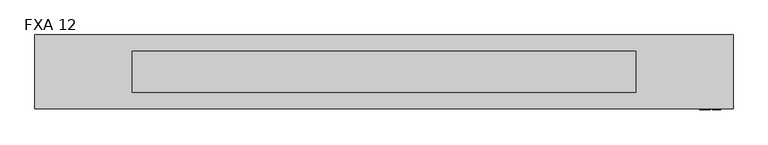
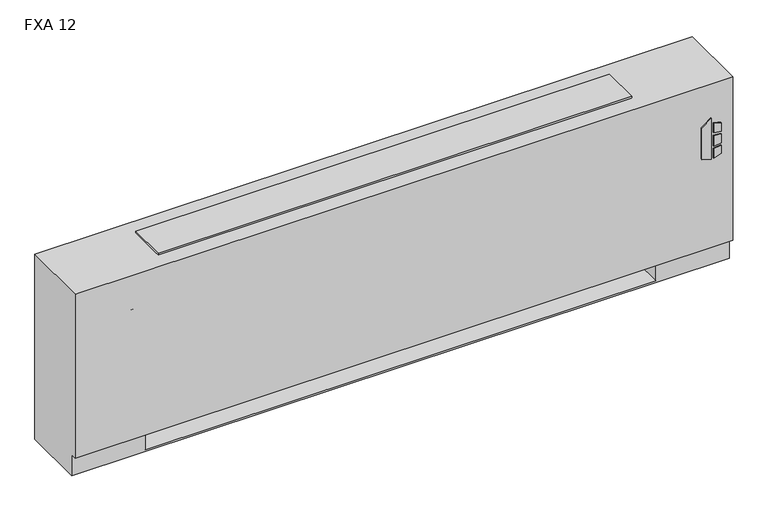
"""IFC4 building model written with IfcOpenShell, lengths in millimetres: proxy geometry, Vertical_Fan_Coil_Unit_-_FXA_-_IEC_-_4-Pipe_TS-FR_LH_2022 : FXA 12."""

from ifc_helpers import new_model, si_unit, point, frame, frame_2d, origin, place, context, project, spatial, polyline, circle_curve, trimmed, segment, composite_curve, outline, extrude, source, transform, mapped, element, save
from ifc_brep_helpers import plane_surface, revolved_surface, advanced_brep


def fxa_12_60c66c87(model_context):
    return source(origin(), model_context, "Body", "SolidModel", [
        extrude(outline(polyline([(391.6086829, 1128.7868862), (381.6606126, 1160.9602728), (523.831537, 1160.9602728), (500.8095309, 1128.7868862), (391.6086829, 1128.7868862)])), frame((0.0, 12.7, 0.0), z_axis=(0.0, 1.0, 0.0), x_axis=(0.0, 0.0, 1.0)), (0.0, 0.0, 1.0), 3.175),
        extrude(outline(polyline([(470.6079683, 1167.7186058), (467.4055757, 1193.8), (496.6344168, 1193.8), (504.6988318, 1167.7186058), (470.6079683, 1167.7186058)])), frame((0.0, 12.7, 0.0), z_axis=(0.0, 1.0, 0.0), x_axis=(0.0, 0.0, 1.0)), (0.0, 0.0, 1.0), 3.175),
        extrude(outline(polyline([(418.7444414, 1193.8), (415.0789404, 1167.7186058), (381.6606126, 1167.7186058), (390.2948498, 1193.8), (418.7444414, 1193.8)])), frame((0.0, 12.7, 0.0), z_axis=(0.0, 1.0, 0.0), x_axis=(0.0, 0.0, 1.0)), (0.0, 0.0, 1.0), 3.175),
        extrude(outline(polyline([(458.0596028, 1193.8), (460.3414292, 1167.7186058), (424.4038806, 1167.7186058), (427.1451456, 1193.8), (458.0596028, 1193.8)])), frame((0.0, 12.7, 0.0), z_axis=(0.0, 1.0, 0.0), x_axis=(0.0, 0.0, 1.0)), (0.0, 0.0, 1.0), 3.175),
        extrude(outline(polyline([(1111.25, 223.266), (1111.25, 81.534), (990.6, 81.534), (990.6, 223.266), (1111.25, 223.266)])), frame((0.0, 0.0, 327.025), z_axis=(0.0, 0.0, 1.0), x_axis=(1.0, 0.0, 0.0)), (0.0, 0.0, 1.0), 260.35),
        extrude(outline(composite_curve([segment(trimmed(circle_curve(frame_2d((-749.3, 130.175)), 9.525), [point((-758.825, 130.175))], [point((-739.775, 130.175))], False, "CARTESIAN"), True, "CONTINUOUS"), segment(trimmed(circle_curve(frame_2d((-749.3, 130.175)), 9.525), [point((-739.775, 130.175))], [point((-758.825, 130.175))], False, "CARTESIAN"), True, "CONTINUOUS")], self_intersect=False)), frame((0.0, 0.0, 101.6), z_axis=(0.0, 0.0, 1.0), x_axis=(1.0, 0.0, 0.0)), (0.0, 0.0, 1.0), 25.4),
        extrude(outline(polyline([(-844.55, 63.5), (-844.55, 196.85), (-685.8, 196.85), (-685.8, 63.5), (-844.55, 63.5)])), frame((0.0, 0.0, 127.0), z_axis=(0.0, 0.0, 1.0), x_axis=(1.0, 0.0, 0.0)), (0.0, 0.0, 1.0), 50.8),
        extrude(outline(composite_curve([segment(trimmed(circle_curve(frame_2d((109.0168, 457.2)), 7.9375), [point((109.0168, 465.1375))], [point((109.0168, 449.2625))], False, "CARTESIAN"), True, "CONTINUOUS"), segment(trimmed(circle_curve(frame_2d((109.0168, 457.2)), 7.9375), [point((109.0168, 449.2625))], [point((109.0168, 465.1375))], False, "CARTESIAN"), True, "CONTINUOUS")], self_intersect=False)), frame((-736.6, 0.0, 0.0), z_axis=(1.0, 0.0, 0.0), x_axis=(0.0, 1.0, 0.0)), (0.0, 0.0, 1.0), 50.8),
        extrude(outline(composite_curve([segment(trimmed(circle_curve(frame_2d((172.085, 460.0194)), 7.9375), [point((172.085, 467.9569))], [point((172.085, 452.0819))], False, "CARTESIAN"), True, "CONTINUOUS"), segment(trimmed(circle_curve(frame_2d((172.085, 460.0194)), 7.9375), [point((172.085, 452.0819))], [point((172.085, 467.9569))], False, "CARTESIAN"), True, "CONTINUOUS")], self_intersect=False)), frame((-736.6, 0.0, 0.0), z_axis=(1.0, 0.0, 0.0), x_axis=(0.0, 1.0, 0.0)), (0.0, 0.0, 1.0), 50.8),
        extrude(outline(composite_curve([segment(trimmed(circle_curve(frame_2d((130.175, 554.99)), 7.9502), [point((130.175, 562.9402))], [point((130.175, 547.0398))], False, "CARTESIAN"), True, "CONTINUOUS"), segment(trimmed(circle_curve(frame_2d((130.175, 554.99)), 7.9502), [point((130.175, 547.0398))], [point((130.175, 562.9402))], False, "CARTESIAN"), True, "CONTINUOUS")], self_intersect=False)), frame((-736.6, 0.0, 0.0), z_axis=(1.0, 0.0, 0.0), x_axis=(0.0, 1.0, 0.0)), (0.0, 0.0, 1.0), 50.8),
        extrude(outline(composite_curve([segment(trimmed(circle_curve(frame_2d((53.975, 416.56)), 7.9502), [point((53.975, 424.5102))], [point((53.975, 408.6098))], False, "CARTESIAN"), True, "CONTINUOUS"), segment(trimmed(circle_curve(frame_2d((53.975, 416.56)), 7.9502), [point((53.975, 408.6098))], [point((53.975, 424.5102))], False, "CARTESIAN"), True, "CONTINUOUS")], self_intersect=False)), frame((-736.6, 0.0, 0.0), z_axis=(1.0, 0.0, 0.0), x_axis=(0.0, 1.0, 0.0)), (0.0, 0.0, 1.0), 50.8),
        advanced_brep(
        [(1231.9, 244.475, 641.35), (-927.1, 244.475, 641.35), (-927.1, 15.875, 641.35), (1231.9, 15.875, 641.35), (-927.1, 244.475, 0.0), (1231.9, 244.475, 0.0), (1231.9, 34.925, 0.0), (-927.1, 34.925, 0.0), (990.6, 244.475, 73.025), (1219.2, 244.475, 73.025), (1219.2, 244.475, 628.65), (990.6, 244.475, 628.65), (990.6, 244.475, 414.8650565), (1019.175, 244.475, 414.8650565), (1019.175, 244.475, 385.2349435), (990.6, 244.475, 385.2349435), (990.6, 244.475, 287.3375), (1019.175, 244.475, 287.3375), (1019.175, 244.475, 258.7625), (990.6, 244.475, 258.7625), (990.6, 244.475, 141.2875), (1019.175, 244.475, 141.2875), (1019.175, 244.475, 112.7125), (990.6, 244.475, 112.7125), (-685.8, 244.475, 628.65), (-914.4, 244.475, 628.65), (-914.4, 244.475, 73.025), (-685.8, 244.475, 73.025), (-685.8, 244.475, 112.7125), (-714.375, 244.475, 112.7125), (-714.375, 244.475, 141.2875), (-685.8, 244.475, 141.2875), (-685.8, 244.475, 258.7625), (-714.375, 244.475, 258.7625), (-714.375, 244.475, 287.3375), (-685.8, 244.475, 287.3375), (-685.8, 244.475, 385.2349435), (-714.375, 244.475, 385.2349435), (-714.375, 244.475, 414.8650565), (-685.8, 244.475, 414.8650565), (1008.8626, 244.475, 127.0), (997.7374, 244.475, 127.0), (1008.8626, 244.475, 400.05), (997.7374, 244.475, 400.05), (1008.8626, 244.475, 273.05), (997.7374, 244.475, 273.05), (-692.9374, 244.475, 127.0), (-704.0626, 244.475, 127.0), (-692.9374, 244.475, 273.05), (-704.0626, 244.475, 273.05), (-692.9374, 244.475, 400.05), (-704.0626, 244.475, 400.05), (-927.1, 34.925, 73.025), (-927.1, 15.875, 73.025), (1231.9, 15.875, 73.025), (1231.9, 34.925, 73.025), (-685.8, 34.925, 73.025), (-685.8, 219.075, 73.025), (990.6, 219.075, 73.025), (990.6, 34.925, 73.025), (990.6, 34.925, 6.35), (-685.8, 34.925, 6.35), (990.6, 41.275, 628.65), (1219.2, 41.275, 628.65), (1219.2, 41.275, 73.025), (990.6, 41.275, 73.025), (-685.8, 41.275, 628.65), (-685.8, 41.275, 73.025), (-914.4, 41.275, 73.025), (-914.4, 41.275, 628.65), (990.6, 219.075, 73.025), (990.6, 238.125, 112.7125), (990.6, 238.125, 141.2875), (990.6, 238.125, 258.7625), (990.6, 238.125, 287.3375), (990.6, 238.125, 385.2349435), (990.6, 238.125, 414.8650565), (-685.8, 219.075, 73.025), (-685.8, 238.125, 414.8650565), (-685.8, 238.125, 385.2349435), (-685.8, 238.125, 287.3375), (-685.8, 238.125, 258.7625), (-685.8, 238.125, 141.2875), (-685.8, 238.125, 112.7125), (-685.8, 219.075, 6.35), (990.6, 219.075, 6.35), (1019.175, 238.125, 112.7125), (1019.175, 238.125, 141.2875), (997.7374, 238.125, 127.0), (1008.8626, 238.125, 127.0), (1019.175, 238.125, 258.7625), (1019.175, 238.125, 287.3375), (997.7374, 238.125, 273.05), (1008.8626, 238.125, 273.05), (1019.175, 238.125, 385.2349435), (1019.175, 238.125, 414.8650565), (997.7374, 238.125, 400.05), (1008.8626, 238.125, 400.05), (-714.375, 238.125, 141.2875), (-714.375, 238.125, 112.7125), (-704.0626, 238.125, 127.0), (-692.9374, 238.125, 127.0), (-714.375, 238.125, 287.3375), (-714.375, 238.125, 258.7625), (-704.0626, 238.125, 273.05), (-692.9374, 238.125, 273.05), (-714.375, 238.125, 414.8650565), (-714.375, 238.125, 385.2349435), (-704.0626, 238.125, 400.05), (-692.9374, 238.125, 400.05)],
        [
            (0, 1),
            (1, 2),
            (2, 3),
            (3, 0),
            (4, 5),
            (5, 6),
            (6, 7),
            (7, 4),
            (0, 5),
            (4, 1),
            (8, 9),
            (9, 10),
            (10, 11),
            (11, 12),
            (12, 13),
            (13, 14),
            (14, 15),
            (15, 16),
            (16, 17),
            (17, 18),
            (18, 19),
            (19, 20),
            (20, 21),
            (21, 22),
            (22, 23),
            (23, 8),
            (24, 25),
            (25, 26),
            (26, 27),
            (27, 28),
            (28, 29),
            (29, 30),
            (30, 31),
            (31, 32),
            (32, 33),
            (33, 34),
            (34, 35),
            (35, 36),
            (36, 37),
            (37, 38),
            (38, 39),
            (39, 24),
            (40, 41, circle_curve(frame((1003.3, 244.475, 127.0), z_axis=(0.0, -1.0, 0.0), x_axis=(-1.0, 0.0, 0.0)), 5.5626)),
            (41, 40, circle_curve(frame((1003.3, 244.475, 127.0), z_axis=(0.0, -1.0, 0.0), x_axis=(-1.0, 0.0, 0.0)), 5.5626)),
            (42, 43, circle_curve(frame((1003.3, 244.475, 400.05), z_axis=(0.0, -1.0, 0.0), x_axis=(-1.0, 0.0, 0.0)), 5.5626)),
            (43, 42, circle_curve(frame((1003.3, 244.475, 400.05), z_axis=(0.0, -1.0, 0.0), x_axis=(-1.0, 0.0, 0.0)), 5.5626)),
            (44, 45, circle_curve(frame((1003.3, 244.475, 273.05), z_axis=(0.0, -1.0, 0.0), x_axis=(-1.0, 0.0, 0.0)), 5.5626)),
            (45, 44, circle_curve(frame((1003.3, 244.475, 273.05), z_axis=(0.0, -1.0, 0.0), x_axis=(-1.0, 0.0, 0.0)), 5.5626)),
            (46, 47, circle_curve(frame((-698.5, 244.475, 127.0), z_axis=(0.0, -1.0, 0.0), x_axis=(-1.0, 0.0, 0.0)), 5.5626)),
            (47, 46, circle_curve(frame((-698.5, 244.475, 127.0), z_axis=(0.0, -1.0, 0.0), x_axis=(-1.0, 0.0, 0.0)), 5.5626)),
            (48, 49, circle_curve(frame((-698.5, 244.475, 273.05), z_axis=(0.0, -1.0, 0.0), x_axis=(-1.0, 0.0, 0.0)), 5.5626)),
            (49, 48, circle_curve(frame((-698.5, 244.475, 273.05), z_axis=(0.0, -1.0, 0.0), x_axis=(-1.0, 0.0, 0.0)), 5.5626)),
            (50, 51, circle_curve(frame((-698.5, 244.475, 400.05), z_axis=(0.0, -1.0, 0.0), x_axis=(-1.0, 0.0, 0.0)), 5.5626)),
            (51, 50, circle_curve(frame((-698.5, 244.475, 400.05), z_axis=(0.0, -1.0, 0.0), x_axis=(-1.0, 0.0, 0.0)), 5.5626)),
            (7, 52),
            (52, 53),
            (53, 2),
            (53, 54),
            (54, 3),
            (54, 55),
            (55, 6),
            (52, 56),
            (56, 57),
            (57, 58),
            (58, 59),
            (59, 55),
            (59, 60),
            (60, 61),
            (61, 56),
            (62, 63),
            (63, 64),
            (64, 65),
            (65, 62),
            (66, 67),
            (67, 68),
            (68, 69),
            (69, 66),
            (65, 70),
            (70, 8),
            (23, 71),
            (71, 72),
            (72, 20),
            (19, 73),
            (73, 74),
            (74, 16),
            (15, 75),
            (75, 76),
            (76, 12),
            (11, 62),
            (64, 9),
            (63, 10),
            (69, 25),
            (24, 66),
            (68, 26),
            (67, 77),
            (77, 27),
            (39, 78),
            (78, 79),
            (79, 36),
            (35, 80),
            (80, 81),
            (81, 32),
            (31, 82),
            (82, 83),
            (83, 28),
            (57, 84),
            (84, 85),
            (85, 58),
            (85, 60),
            (84, 61),
            (71, 86),
            (86, 87),
            (87, 72),
            (88, 89, circle_curve(frame((1003.3, 238.125, 127.0), z_axis=(0.0, 1.0, 0.0), x_axis=(-1.0, 0.0, 0.0)), 5.5626)),
            (89, 88, circle_curve(frame((1003.3, 238.125, 127.0), z_axis=(0.0, 1.0, 0.0), x_axis=(-1.0, 0.0, 0.0)), 5.5626)),
            (73, 90),
            (90, 91),
            (91, 74),
            (92, 93, circle_curve(frame((1003.3, 238.125, 273.05), z_axis=(0.0, 1.0, 0.0), x_axis=(-1.0, 0.0, 0.0)), 5.5626)),
            (93, 92, circle_curve(frame((1003.3, 238.125, 273.05), z_axis=(0.0, 1.0, 0.0), x_axis=(-1.0, 0.0, 0.0)), 5.5626)),
            (75, 94),
            (94, 95),
            (95, 76),
            (96, 97, circle_curve(frame((1003.3, 238.125, 400.05), z_axis=(0.0, 1.0, 0.0), x_axis=(-1.0, 0.0, 0.0)), 5.5626)),
            (97, 96, circle_curve(frame((1003.3, 238.125, 400.05), z_axis=(0.0, 1.0, 0.0), x_axis=(-1.0, 0.0, 0.0)), 5.5626)),
            (98, 99),
            (99, 83),
            (82, 98),
            (100, 101, circle_curve(frame((-698.5, 238.125, 127.0), z_axis=(0.0, 1.0, 0.0), x_axis=(-1.0, 0.0, 0.0)), 5.5626)),
            (101, 100, circle_curve(frame((-698.5, 238.125, 127.0), z_axis=(0.0, 1.0, 0.0), x_axis=(-1.0, 0.0, 0.0)), 5.5626)),
            (102, 103),
            (103, 81),
            (80, 102),
            (104, 105, circle_curve(frame((-698.5, 238.125, 273.05), z_axis=(0.0, 1.0, 0.0), x_axis=(-1.0, 0.0, 0.0)), 5.5626)),
            (105, 104, circle_curve(frame((-698.5, 238.125, 273.05), z_axis=(0.0, 1.0, 0.0), x_axis=(-1.0, 0.0, 0.0)), 5.5626)),
            (106, 107),
            (107, 79),
            (78, 106),
            (108, 109, circle_curve(frame((-698.5, 238.125, 400.05), z_axis=(0.0, 1.0, 0.0), x_axis=(-1.0, 0.0, 0.0)), 5.5626)),
            (109, 108, circle_curve(frame((-698.5, 238.125, 400.05), z_axis=(0.0, 1.0, 0.0), x_axis=(-1.0, 0.0, 0.0)), 5.5626)),
            (87, 21),
            (86, 22),
            (91, 17),
            (90, 18),
            (95, 13),
            (94, 14),
            (30, 98),
            (99, 29),
            (34, 102),
            (103, 33),
            (38, 106),
            (107, 37),
            (88, 41),
            (40, 89),
            (96, 43),
            (42, 97),
            (92, 45),
            (44, 93),
            (100, 47),
            (46, 101),
            (104, 49),
            (48, 105),
            (108, 51),
            (50, 109),
        ],
        [
            plane_surface(frame((-927.1, 244.475, 641.35), z_axis=(0.0, 0.0, 1.0), x_axis=(-1.0, 0.0, 0.0))),
            plane_surface(frame((-927.1, 244.475, 0.0), z_axis=(0.0, 0.0, -1.0), x_axis=(1.0, 0.0, 0.0))),
            plane_surface(frame((1231.9, 244.475, 641.35), z_axis=(0.0, 1.0, 0.0), x_axis=(0.0, 0.0, -1.0))),
            plane_surface(frame((-927.1, 244.475, 641.35), z_axis=(-1.0, 0.0, 0.0), x_axis=(0.0, 0.0, -1.0))),
            plane_surface(frame((-927.1, 15.875, 641.35), z_axis=(0.0, -1.0, 0.0), x_axis=(0.0, 0.0, -1.0))),
            plane_surface(frame((1231.9, 15.875, 641.35), z_axis=(1.0, 0.0, 0.0), x_axis=(0.0, 0.0, -1.0))),
            plane_surface(frame((-927.1, 15.875, 73.025), z_axis=(0.0, 0.0, -1.0), x_axis=(1.0, 0.0, 0.0))),
            plane_surface(frame((-927.1, 34.925, 73.025), z_axis=(0.0, -1.0, 0.0), x_axis=(1.0, 0.0, 0.0))),
            plane_surface(frame((990.6, 41.275, 628.65), z_axis=(0.0, 1.0, 0.0), x_axis=(0.0, 0.0, -1.0))),
            plane_surface(frame((990.6, 41.275, 628.65), z_axis=(1.0, 0.0, 0.0), x_axis=(0.0, 1.0, 0.0))),
            plane_surface(frame((990.6, 41.275, 73.025), z_axis=(0.0, 0.0, 1.0), x_axis=(0.0, 1.0, 0.0))),
            plane_surface(frame((1219.2, 41.275, 73.025), z_axis=(-1.0, 0.0, 0.0), x_axis=(0.0, 1.0, 0.0))),
            plane_surface(frame((1219.2, 41.275, 628.65), z_axis=(0.0, 0.0, -1.0), x_axis=(0.0, 1.0, 0.0))),
            plane_surface(frame((-685.8, 41.275, 628.65), z_axis=(0.0, 0.0, -1.0), x_axis=(0.0, 1.0, 0.0))),
            plane_surface(frame((-914.4, 41.275, 628.65), z_axis=(1.0, 0.0, 0.0), x_axis=(0.0, 1.0, 0.0))),
            plane_surface(frame((-914.4, 41.275, 73.025), z_axis=(0.0, 0.0, 1.0), x_axis=(0.0, 1.0, 0.0))),
            plane_surface(frame((-685.8, 41.275, 73.025), z_axis=(-1.0, 0.0, 0.0), x_axis=(0.0, 1.0, 0.0))),
            plane_surface(frame((990.6, 219.075, 73.025), z_axis=(0.0, -1.0, 0.0), x_axis=(0.0, 0.0, -1.0))),
            plane_surface(frame((990.6, 219.075, 73.025), z_axis=(-1.0, 0.0, 0.0), x_axis=(0.0, -1.0, 0.0))),
            plane_surface(frame((990.6, 219.075, 6.35), z_axis=(0.0, 0.0, 1.0), x_axis=(0.0, -1.0, 0.0))),
            plane_surface(frame((-685.8, 219.075, 6.35), z_axis=(1.0, 0.0, 0.0), x_axis=(0.0, -1.0, 0.0))),
            plane_surface(frame((1019.175, 238.125, 141.2875), z_axis=(0.0, -1.0, 0.0), x_axis=(-1.0, 0.0, 0.0))),
            plane_surface(frame((990.6, 244.475, 141.2875), z_axis=(0.0, 0.0, 1.0), x_axis=(0.0, -1.0, 0.0))),
            plane_surface(frame((1019.175, 244.475, 141.2875), z_axis=(1.0, 0.0, 0.0), x_axis=(0.0, -1.0, 0.0))),
            plane_surface(frame((1019.175, 244.475, 112.7125), z_axis=(0.0, 0.0, -1.0), x_axis=(0.0, -1.0, 0.0))),
            plane_surface(frame((990.6, 244.475, 287.3375), z_axis=(0.0, 0.0, 1.0), x_axis=(0.0, -1.0, 0.0))),
            plane_surface(frame((1019.175, 244.475, 287.3375), z_axis=(1.0, 0.0, 0.0), x_axis=(0.0, -1.0, 0.0))),
            plane_surface(frame((1019.175, 244.475, 258.7625), z_axis=(0.0, 0.0, -1.0), x_axis=(0.0, -1.0, 0.0))),
            plane_surface(frame((990.6, 244.475, 414.8650565), z_axis=(0.0, 0.0, 1.0), x_axis=(0.0, -1.0, 0.0))),
            plane_surface(frame((1019.175, 244.475, 414.8650565), z_axis=(1.0, 0.0, 0.0), x_axis=(0.0, -1.0, 0.0))),
            plane_surface(frame((1019.175, 244.475, 385.2349435), z_axis=(0.0, 0.0, -1.0), x_axis=(0.0, -1.0, 0.0))),
            plane_surface(frame((-714.375, 244.475, 141.2875), z_axis=(0.0, 0.0, 1.0), x_axis=(0.0, -1.0, 0.0))),
            plane_surface(frame((-685.8, 244.475, 112.7125), z_axis=(0.0, 0.0, -1.0), x_axis=(0.0, -1.0, 0.0))),
            plane_surface(frame((-714.375, 244.475, 112.7125), z_axis=(-1.0, 0.0, 0.0), x_axis=(0.0, -1.0, 0.0))),
            plane_surface(frame((-714.375, 244.475, 287.3375), z_axis=(0.0, 0.0, 1.0), x_axis=(0.0, -1.0, 0.0))),
            plane_surface(frame((-685.8, 244.475, 258.7625), z_axis=(0.0, 0.0, -1.0), x_axis=(0.0, -1.0, 0.0))),
            plane_surface(frame((-714.375, 244.475, 258.7625), z_axis=(-1.0, 0.0, 0.0), x_axis=(0.0, -1.0, 0.0))),
            plane_surface(frame((-714.375, 244.475, 414.8650565), z_axis=(0.0, 0.0, 1.0), x_axis=(0.0, -1.0, 0.0))),
            plane_surface(frame((-685.8, 244.475, 385.2349435), z_axis=(0.0, 0.0, -1.0), x_axis=(0.0, -1.0, 0.0))),
            plane_surface(frame((-714.375, 244.475, 385.2349435), z_axis=(-1.0, 0.0, 0.0), x_axis=(0.0, -1.0, 0.0))),
            revolved_surface(polyline([(997.7374, 238.125, 127.0), (997.7374, 244.475, 127.0)]), (1003.3, 244.475, 127.0), (0.0, -1.0, 0.0)),
            revolved_surface(polyline([(997.7374, 238.125, 400.05), (997.7374, 244.475, 400.05)]), (1003.3, 244.475, 400.05), (0.0, -1.0, 0.0)),
            revolved_surface(polyline([(997.7374, 238.125, 273.05), (997.7374, 244.475, 273.05)]), (1003.3, 244.475, 273.05), (0.0, -1.0, 0.0)),
            revolved_surface(polyline([(-704.0626, 238.125, 127.0), (-704.0626, 244.475, 127.0)]), (-698.5, 244.475, 127.0), (0.0, -1.0, 0.0)),
            revolved_surface(polyline([(-704.0626, 238.125, 273.05), (-704.0626, 244.475, 273.05)]), (-698.5, 244.475, 273.05), (0.0, -1.0, 0.0)),
            revolved_surface(polyline([(-704.0626, 238.125, 400.05), (-704.0626, 244.475, 400.05)]), (-698.5, 244.475, 400.05), (0.0, -1.0, 0.0)),
        ],
        [
            (0, [[1, 2, 3, 4]]),
            (1, [[5, 6, 7, 8]]),
            (2, [[-1, 9, -5, 10], [11, 12, 13, 14, 15, 16, 17, 18, 19, 20, 21, 22, 23, 24, 25, 26], [27, 28, 29, 30, 31, 32, 33, 34, 35, 36, 37, 38, 39, 40, 41, 42], [43, 44], [45, 46], [47, 48], [49, 50], [51, 52], [53, 54]]),
            (3, [[-2, -10, -8, 55, 56, 57]]),
            (4, [[-3, -57, 58, 59]]),
            (5, [[-4, -59, 60, 61, -6, -9]]),
            (6, [[-56, 62, 63, 64, 65, 66, -60, -58]]),
            (7, [[-7, -61, -66, 67, 68, 69, -62, -55]]),
            (8, [[70, 71, 72, 73]]),
            (8, [[74, 75, 76, 77]]),
            (9, [[-73, 78, 79, -26, 80, 81, 82, -22, 83, 84, 85, -18, 86, 87, 88, -14, 89]]),
            (10, [[-72, 90, -11, -79, -78]]),
            (11, [[-71, 91, -12, -90]]),
            (12, [[-70, -89, -13, -91]]),
            (13, [[-77, 92, -27, 93]]),
            (14, [[-76, 94, -28, -92]]),
            (15, [[-75, 95, 96, -29, -94]]),
            (16, [[-74, -93, -42, 97, 98, 99, -38, 100, 101, 102, -34, 103, 104, 105, -30, -96, -95]]),
            (17, [[-64, 106, 107, 108]]),
            (18, [[-108, 109, -67, -65]]),
            (19, [[-107, 110, -68, -109]]),
            (20, [[-106, -63, -69, -110]]),
            (21, [[111, 112, 113, -81], [114, 115]]),
            (21, [[116, 117, 118, -84], [119, 120]]),
            (21, [[121, 122, 123, -87], [124, 125]]),
            (21, [[126, 127, -104, 128], [129, 130]]),
            (21, [[131, 132, -101, 133], [134, 135]]),
            (21, [[136, 137, -98, 138], [139, 140]]),
            (22, [[-113, 141, -23, -82]]),
            (23, [[-112, 142, -24, -141]]),
            (24, [[-111, -80, -25, -142]]),
            (25, [[-118, 143, -19, -85]]),
            (26, [[-117, 144, -20, -143]]),
            (27, [[-116, -83, -21, -144]]),
            (28, [[-123, 145, -15, -88]]),
            (29, [[-122, 146, -16, -145]]),
            (30, [[-121, -86, -17, -146]]),
            (31, [[-128, -103, -33, 147]]),
            (32, [[-127, 148, -31, -105]]),
            (33, [[-126, -147, -32, -148]]),
            (34, [[-133, -100, -37, 149]]),
            (35, [[-132, 150, -35, -102]]),
            (36, [[-131, -149, -36, -150]]),
            (37, [[-138, -97, -41, 151]]),
            (38, [[-137, 152, -39, -99]]),
            (39, [[-136, -151, -40, -152]]),
            (40, [[153, -43, 154, -114]]),
            (40, [[-153, -115, -154, -44]]),
            (41, [[155, -45, 156, -124]]),
            (41, [[-155, -125, -156, -46]]),
            (42, [[157, -47, 158, -119]]),
            (42, [[-157, -120, -158, -48]]),
            (43, [[159, -49, 160, -129]]),
            (43, [[-159, -130, -160, -50]]),
            (44, [[161, -51, 162, -134]]),
            (44, [[-161, -135, -162, -52]]),
            (45, [[163, -53, 164, -139]]),
            (45, [[-163, -140, -164, -54]]),
        ],
    ),
        extrude(outline(polyline([(930.275, 193.675), (930.275, 66.675), (-625.475, 66.675), (-625.475, 193.675), (930.275, 193.675)])), frame((0.0, 0.0, 641.35), z_axis=(0.0, 0.0, 1.0), x_axis=(1.0, 0.0, 0.0)), (0.0, 0.0, 1.0), 6.35),
    ])


if __name__ == "__main__":
    model = new_model("IFC4")
    model_context = context("Model", 3, world=origin())
    ifc_project = project(units=[si_unit("LENGTHUNIT", "METRE", prefix="MILLI")], contexts=[model_context])
    site = spatial("IfcSite", under=ifc_project)
    building = spatial("IfcBuilding", under=site)
    placement = place(None, origin())
    fxa_12_shape = fxa_12_60c66c87(model_context)
    element("IfcBuildingElementProxy", 1, Name="Vertical_Fan_Coil_Unit_-_FXA_-_IEC_-_4-Pipe_TS-FR_LH_2022 : FXA 12", ObjectType="Vertical_Fan_Coil_Unit_-_FXA_-_IEC_-_4-Pipe_TS-FR_LH_2022 : FXA 12", at=placement, inside=building, context=model_context, shape_type="MappedRepresentation", body=[
        mapped(fxa_12_shape, transform((0.0, 0.0, 0.0), x_axis=(1.0, 0.0, 0.0), y_axis=(0.0, 1.0, 0.0), z_axis=(0.0, 0.0, 1.0))),
    ])
    save(model, "model.ifc")
